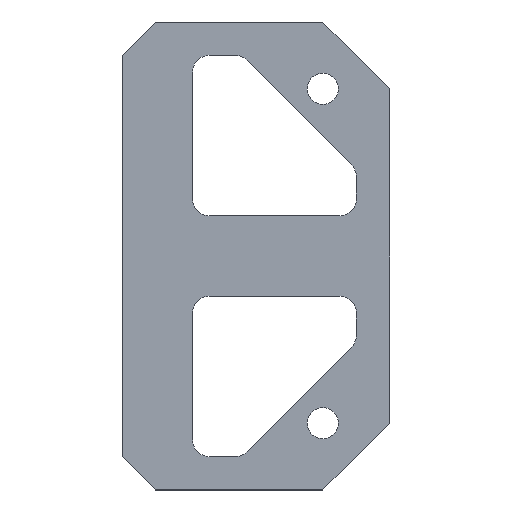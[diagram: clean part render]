
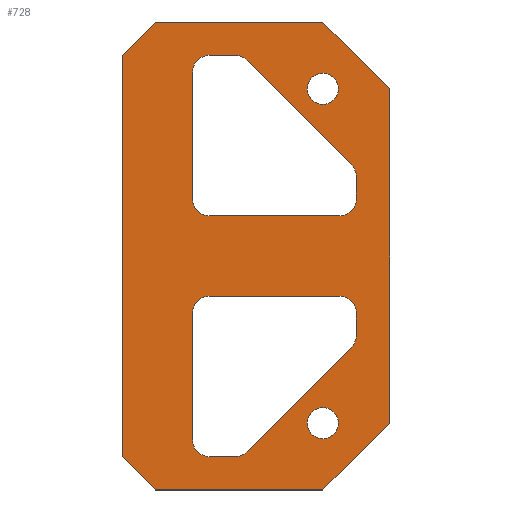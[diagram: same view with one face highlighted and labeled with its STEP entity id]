
A CAD part, top view. The second image highlights one B-rep face of the part: STEP entity #728.
In plain terms, the highlighted planar face has unit normal (0, 0, 1).
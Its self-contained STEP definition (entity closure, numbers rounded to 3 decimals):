
#88=FACE_BOUND('',#179,.T.);
#89=FACE_BOUND('',#180,.T.);
#90=FACE_BOUND('',#181,.T.);
#91=FACE_BOUND('',#182,.T.);
#114=PLANE('',#807);
#146=FACE_OUTER_BOUND('',#178,.T.);
#178=EDGE_LOOP('',(#626,#627,#628,#629,#630,#631,#632,#633));
#179=EDGE_LOOP('',(#634));
#180=EDGE_LOOP('',(#635));
#181=EDGE_LOOP('',(#636,#637,#638,#639,#640,#641,#642,#643,#644,#645));
#182=EDGE_LOOP('',(#646,#647,#648,#649,#650,#651,#652,#653,#654,#655));
#191=LINE('',#1051,#257);
#195=LINE('',#1063,#261);
#199=LINE('',#1075,#265);
#203=LINE('',#1087,#269);
#207=LINE('',#1097,#273);
#211=LINE('',#1111,#277);
#215=LINE('',#1123,#281);
#219=LINE('',#1135,#285);
#223=LINE('',#1147,#289);
#227=LINE('',#1157,#293);
#232=LINE('',#1177,#298);
#235=LINE('',#1183,#301);
#238=LINE('',#1189,#304);
#241=LINE('',#1195,#307);
#244=LINE('',#1201,#310);
#247=LINE('',#1207,#313);
#250=LINE('',#1213,#316);
#253=LINE('',#1217,#319);
#257=VECTOR('',#838,10.);
#261=VECTOR('',#850,10.);
#265=VECTOR('',#862,10.);
#269=VECTOR('',#874,10.);
#273=VECTOR('',#886,10.);
#277=VECTOR('',#898,10.);
#281=VECTOR('',#910,10.);
#285=VECTOR('',#922,10.);
#289=VECTOR('',#934,10.);
#293=VECTOR('',#946,10.);
#298=VECTOR('',#965,10.);
#301=VECTOR('',#970,10.);
#304=VECTOR('',#975,10.);
#307=VECTOR('',#980,10.);
#310=VECTOR('',#985,10.);
#313=VECTOR('',#990,10.);
#316=VECTOR('',#995,10.);
#319=VECTOR('',#1000,10.);
#321=CIRCLE('',#755,5.);
#323=CIRCLE('',#759,5.);
#325=CIRCLE('',#763,5.);
#327=CIRCLE('',#767,5.);
#329=CIRCLE('',#771,5.);
#331=CIRCLE('',#775,5.);
#333=CIRCLE('',#779,5.);
#335=CIRCLE('',#783,5.);
#337=CIRCLE('',#787,5.);
#339=CIRCLE('',#791,5.);
#340=CIRCLE('',#794,4.65);
#342=CIRCLE('',#797,4.65);
#358=VERTEX_POINT('',#1042);
#359=VERTEX_POINT('',#1044);
#361=VERTEX_POINT('',#1050);
#363=VERTEX_POINT('',#1056);
#365=VERTEX_POINT('',#1062);
#367=VERTEX_POINT('',#1068);
#369=VERTEX_POINT('',#1074);
#371=VERTEX_POINT('',#1080);
#373=VERTEX_POINT('',#1086);
#375=VERTEX_POINT('',#1092);
#378=VERTEX_POINT('',#1102);
#379=VERTEX_POINT('',#1104);
#381=VERTEX_POINT('',#1110);
#383=VERTEX_POINT('',#1116);
#385=VERTEX_POINT('',#1122);
#387=VERTEX_POINT('',#1128);
#389=VERTEX_POINT('',#1134);
#391=VERTEX_POINT('',#1140);
#393=VERTEX_POINT('',#1146);
#395=VERTEX_POINT('',#1152);
#396=VERTEX_POINT('',#1159);
#398=VERTEX_POINT('',#1165);
#402=VERTEX_POINT('',#1174);
#403=VERTEX_POINT('',#1176);
#405=VERTEX_POINT('',#1182);
#407=VERTEX_POINT('',#1188);
#409=VERTEX_POINT('',#1194);
#411=VERTEX_POINT('',#1200);
#413=VERTEX_POINT('',#1206);
#415=VERTEX_POINT('',#1212);
#418=EDGE_CURVE('',#359,#358,#321,.T.);
#421=EDGE_CURVE('',#361,#359,#191,.T.);
#424=EDGE_CURVE('',#363,#361,#323,.T.);
#427=EDGE_CURVE('',#365,#363,#195,.T.);
#430=EDGE_CURVE('',#367,#365,#325,.T.);
#433=EDGE_CURVE('',#369,#367,#199,.T.);
#436=EDGE_CURVE('',#371,#369,#327,.T.);
#439=EDGE_CURVE('',#373,#371,#203,.T.);
#442=EDGE_CURVE('',#375,#373,#329,.T.);
#445=EDGE_CURVE('',#358,#375,#207,.T.);
#448=EDGE_CURVE('',#379,#378,#331,.T.);
#451=EDGE_CURVE('',#381,#379,#211,.T.);
#454=EDGE_CURVE('',#383,#381,#333,.T.);
#457=EDGE_CURVE('',#385,#383,#215,.T.);
#460=EDGE_CURVE('',#387,#385,#335,.T.);
#463=EDGE_CURVE('',#389,#387,#219,.T.);
#466=EDGE_CURVE('',#391,#389,#337,.T.);
#469=EDGE_CURVE('',#393,#391,#223,.T.);
#472=EDGE_CURVE('',#395,#393,#339,.T.);
#475=EDGE_CURVE('',#378,#395,#227,.T.);
#476=EDGE_CURVE('',#396,#396,#340,.T.);
#479=EDGE_CURVE('',#398,#398,#342,.T.);
#484=EDGE_CURVE('',#403,#402,#232,.T.);
#487=EDGE_CURVE('',#405,#403,#235,.T.);
#490=EDGE_CURVE('',#407,#405,#238,.T.);
#493=EDGE_CURVE('',#409,#407,#241,.T.);
#496=EDGE_CURVE('',#411,#409,#244,.T.);
#499=EDGE_CURVE('',#413,#411,#247,.T.);
#502=EDGE_CURVE('',#415,#413,#250,.T.);
#505=EDGE_CURVE('',#402,#415,#253,.T.);
#626=ORIENTED_EDGE('',*,*,#505,.T.);
#627=ORIENTED_EDGE('',*,*,#502,.T.);
#628=ORIENTED_EDGE('',*,*,#499,.T.);
#629=ORIENTED_EDGE('',*,*,#496,.T.);
#630=ORIENTED_EDGE('',*,*,#493,.T.);
#631=ORIENTED_EDGE('',*,*,#490,.T.);
#632=ORIENTED_EDGE('',*,*,#487,.T.);
#633=ORIENTED_EDGE('',*,*,#484,.T.);
#634=ORIENTED_EDGE('',*,*,#479,.T.);
#635=ORIENTED_EDGE('',*,*,#476,.T.);
#636=ORIENTED_EDGE('',*,*,#475,.T.);
#637=ORIENTED_EDGE('',*,*,#472,.T.);
#638=ORIENTED_EDGE('',*,*,#469,.T.);
#639=ORIENTED_EDGE('',*,*,#466,.T.);
#640=ORIENTED_EDGE('',*,*,#463,.T.);
#641=ORIENTED_EDGE('',*,*,#460,.T.);
#642=ORIENTED_EDGE('',*,*,#457,.T.);
#643=ORIENTED_EDGE('',*,*,#454,.T.);
#644=ORIENTED_EDGE('',*,*,#451,.T.);
#645=ORIENTED_EDGE('',*,*,#448,.T.);
#646=ORIENTED_EDGE('',*,*,#445,.T.);
#647=ORIENTED_EDGE('',*,*,#442,.T.);
#648=ORIENTED_EDGE('',*,*,#439,.T.);
#649=ORIENTED_EDGE('',*,*,#436,.T.);
#650=ORIENTED_EDGE('',*,*,#433,.T.);
#651=ORIENTED_EDGE('',*,*,#430,.T.);
#652=ORIENTED_EDGE('',*,*,#427,.T.);
#653=ORIENTED_EDGE('',*,*,#424,.T.);
#654=ORIENTED_EDGE('',*,*,#421,.T.);
#655=ORIENTED_EDGE('',*,*,#418,.T.);
#728=ADVANCED_FACE('',(#146,#88,#89,#90,#91),#114,.T.);
#755=AXIS2_PLACEMENT_3D('',#1045,#832,#833);
#759=AXIS2_PLACEMENT_3D('',#1057,#844,#845);
#763=AXIS2_PLACEMENT_3D('',#1069,#856,#857);
#767=AXIS2_PLACEMENT_3D('',#1081,#868,#869);
#771=AXIS2_PLACEMENT_3D('',#1093,#880,#881);
#775=AXIS2_PLACEMENT_3D('',#1105,#892,#893);
#779=AXIS2_PLACEMENT_3D('',#1117,#904,#905);
#783=AXIS2_PLACEMENT_3D('',#1129,#916,#917);
#787=AXIS2_PLACEMENT_3D('',#1141,#928,#929);
#791=AXIS2_PLACEMENT_3D('',#1153,#940,#941);
#794=AXIS2_PLACEMENT_3D('',#1160,#949,#950);
#797=AXIS2_PLACEMENT_3D('',#1166,#956,#957);
#807=AXIS2_PLACEMENT_3D('',#1218,#1001,#1002);
#832=DIRECTION('center_axis',(0.,0.,-1.));
#833=DIRECTION('ref_axis',(-1.,0.,0.));
#838=DIRECTION('',(0.707,-0.707,0.));
#844=DIRECTION('center_axis',(0.,0.,-1.));
#845=DIRECTION('ref_axis',(-0.707,-0.707,0.));
#850=DIRECTION('',(1.,0.,0.));
#856=DIRECTION('center_axis',(0.,0.,-1.));
#857=DIRECTION('ref_axis',(0.,-1.,0.));
#862=DIRECTION('',(0.,1.,0.));
#868=DIRECTION('center_axis',(0.,0.,-1.));
#869=DIRECTION('ref_axis',(1.,0.,0.));
#874=DIRECTION('',(-1.,0.,0.));
#880=DIRECTION('center_axis',(0.,0.,-1.));
#881=DIRECTION('ref_axis',(0.,1.,0.));
#886=DIRECTION('',(0.,-1.,0.));
#892=DIRECTION('center_axis',(0.,0.,-1.));
#893=DIRECTION('ref_axis',(1.,0.,0.));
#898=DIRECTION('',(-1.,0.,0.));
#904=DIRECTION('center_axis',(0.,0.,-1.));
#905=DIRECTION('ref_axis',(0.,1.,0.));
#910=DIRECTION('',(-0.707,-0.707,0.));
#916=DIRECTION('center_axis',(0.,0.,-1.));
#917=DIRECTION('ref_axis',(-0.707,0.707,0.));
#922=DIRECTION('',(0.,-1.,0.));
#928=DIRECTION('center_axis',(0.,0.,-1.));
#929=DIRECTION('ref_axis',(-1.,0.,0.));
#934=DIRECTION('',(1.,0.,0.));
#940=DIRECTION('center_axis',(0.,0.,-1.));
#941=DIRECTION('ref_axis',(0.,-1.,0.));
#946=DIRECTION('',(0.,1.,0.));
#949=DIRECTION('center_axis',(0.,0.,-1.));
#950=DIRECTION('ref_axis',(-1.,0.,0.));
#956=DIRECTION('center_axis',(0.,0.,-1.));
#957=DIRECTION('ref_axis',(-1.,0.,0.));
#965=DIRECTION('',(1.,0.,0.));
#970=DIRECTION('',(0.707,-0.707,0.));
#975=DIRECTION('',(0.,-1.,0.));
#980=DIRECTION('',(-0.707,-0.707,0.));
#985=DIRECTION('',(-1.,0.,0.));
#990=DIRECTION('',(-0.707,0.707,0.));
#995=DIRECTION('',(0.,1.,0.));
#1000=DIRECTION('',(0.707,0.707,0.));
#1001=DIRECTION('center_axis',(0.,0.,1.));
#1002=DIRECTION('ref_axis',(1.,0.,0.));
#1042=CARTESIAN_POINT('',(47.5,-46.213,0.25));
#1044=CARTESIAN_POINT('',(46.036,-42.678,0.25));
#1045=CARTESIAN_POINT('Origin',(42.5,-46.213,0.25));
#1050=CARTESIAN_POINT('',(14.822,-11.464,0.25));
#1051=CARTESIAN_POINT('',(14.822,-11.464,0.25));
#1056=CARTESIAN_POINT('',(11.287,-10.,0.25));
#1057=CARTESIAN_POINT('Origin',(11.287,-15.,0.25));
#1062=CARTESIAN_POINT('',(3.5,-10.,0.25));
#1063=CARTESIAN_POINT('',(3.5,-10.,0.25));
#1068=CARTESIAN_POINT('',(-1.5,-15.,0.25));
#1069=CARTESIAN_POINT('Origin',(3.5,-15.,0.25));
#1074=CARTESIAN_POINT('',(-1.5,-53.,0.25));
#1075=CARTESIAN_POINT('',(-1.5,-53.,0.25));
#1080=CARTESIAN_POINT('',(3.5,-58.,0.25));
#1081=CARTESIAN_POINT('Origin',(3.5,-53.,0.25));
#1086=CARTESIAN_POINT('',(42.5,-58.,0.25));
#1087=CARTESIAN_POINT('',(42.5,-58.,0.25));
#1092=CARTESIAN_POINT('',(47.5,-53.,0.25));
#1093=CARTESIAN_POINT('Origin',(42.5,-53.,0.25));
#1097=CARTESIAN_POINT('',(47.5,-46.213,0.25));
#1102=CARTESIAN_POINT('',(-1.5,-125.,0.25));
#1104=CARTESIAN_POINT('',(3.5,-130.,0.25));
#1105=CARTESIAN_POINT('Origin',(3.5,-125.,0.25));
#1110=CARTESIAN_POINT('',(11.287,-130.,0.25));
#1111=CARTESIAN_POINT('',(11.287,-130.,0.25));
#1116=CARTESIAN_POINT('',(14.822,-128.536,0.25));
#1117=CARTESIAN_POINT('Origin',(11.287,-125.,0.25));
#1122=CARTESIAN_POINT('',(46.036,-97.322,0.25));
#1123=CARTESIAN_POINT('',(46.036,-97.322,0.25));
#1128=CARTESIAN_POINT('',(47.5,-93.787,0.25));
#1129=CARTESIAN_POINT('Origin',(42.5,-93.787,0.25));
#1134=CARTESIAN_POINT('',(47.5,-87.,0.25));
#1135=CARTESIAN_POINT('',(47.5,-87.,0.25));
#1140=CARTESIAN_POINT('',(42.5,-82.,0.25));
#1141=CARTESIAN_POINT('Origin',(42.5,-87.,0.25));
#1146=CARTESIAN_POINT('',(3.5,-82.,0.25));
#1147=CARTESIAN_POINT('',(3.5,-82.,0.25));
#1152=CARTESIAN_POINT('',(-1.5,-87.,0.25));
#1153=CARTESIAN_POINT('Origin',(3.5,-87.,0.25));
#1157=CARTESIAN_POINT('',(-1.5,-125.,0.25));
#1159=CARTESIAN_POINT('',(42.15,-20.,0.25));
#1160=CARTESIAN_POINT('Origin',(37.5,-20.,0.25));
#1165=CARTESIAN_POINT('',(42.15,-120.,0.25));
#1166=CARTESIAN_POINT('Origin',(37.5,-120.,0.25));
#1174=CARTESIAN_POINT('',(37.5,-140.,0.25));
#1176=CARTESIAN_POINT('',(-12.5,-140.,0.25));
#1177=CARTESIAN_POINT('',(-12.5,-140.,0.25));
#1182=CARTESIAN_POINT('',(-22.5,-130.,0.25));
#1183=CARTESIAN_POINT('',(-22.5,-130.,0.25));
#1188=CARTESIAN_POINT('',(-22.5,-10.,0.25));
#1189=CARTESIAN_POINT('',(-22.5,-10.,0.25));
#1194=CARTESIAN_POINT('',(-12.5,0.,0.25));
#1195=CARTESIAN_POINT('',(-12.5,0.,0.25));
#1200=CARTESIAN_POINT('',(37.5,0.,0.25));
#1201=CARTESIAN_POINT('',(37.5,0.,0.25));
#1206=CARTESIAN_POINT('',(57.5,-20.,0.25));
#1207=CARTESIAN_POINT('',(57.5,-20.,0.25));
#1212=CARTESIAN_POINT('',(57.5,-120.,0.25));
#1213=CARTESIAN_POINT('',(57.5,-120.,0.25));
#1217=CARTESIAN_POINT('',(37.5,-140.,0.25));
#1218=CARTESIAN_POINT('Origin',(17.5,-70.,0.25));
